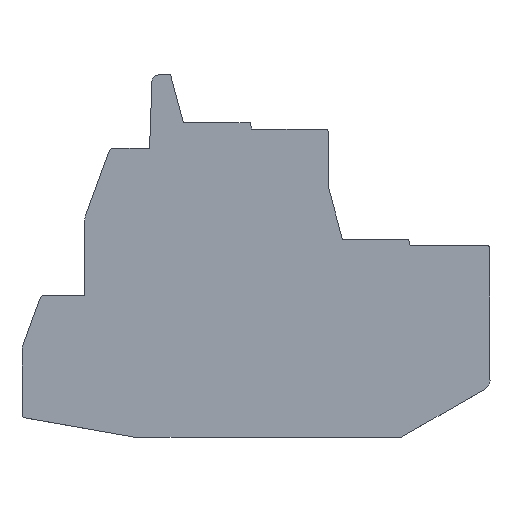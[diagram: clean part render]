
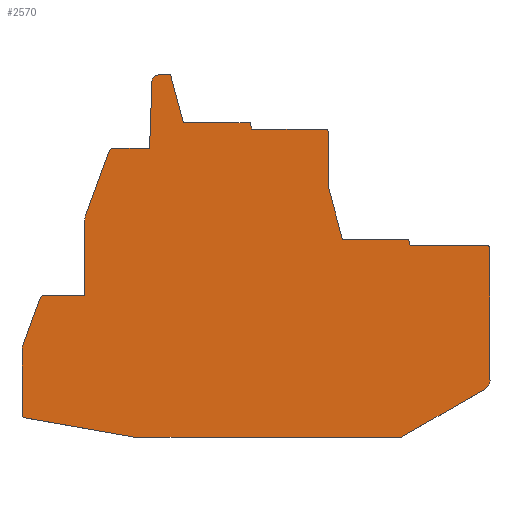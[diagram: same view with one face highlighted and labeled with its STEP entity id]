
A CAD part, top view. The second image highlights one B-rep face of the part: STEP entity #2570.
In plain terms, the highlighted planar face has unit normal (0, 0, 1).
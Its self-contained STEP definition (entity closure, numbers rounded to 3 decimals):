
#10=CARTESIAN_POINT('',(1.987,24.2,3.));
#20=DIRECTION('',(0.,0.,1.));
#30=DIRECTION('',(1.,0.,-0.));
#40=AXIS2_PLACEMENT_3D('',#10,#20,#30);
#50=PLANE('',#40);
#60=CARTESIAN_POINT('',(0.,56.9,3.));
#70=DIRECTION('',(-1.,0.,0.));
#80=VECTOR('',#70,1.);
#90=LINE('',#60,#80);
#100=CARTESIAN_POINT('',(-13.3,56.9,3.));
#110=VERTEX_POINT('',#100);
#120=CARTESIAN_POINT('',(-15.233,56.9,3.));
#130=VERTEX_POINT('',#120);
#140=EDGE_CURVE('',#110,#130,#90,.T.);
#150=ORIENTED_EDGE('',*,*,#140,.T.);
#160=CARTESIAN_POINT('',(1.946,0.,3.));
#170=DIRECTION('',(-0.259,0.966,0.));
#180=VECTOR('',#170,1.);
#190=LINE('',#160,#180);
#200=CARTESIAN_POINT('',(-11.29,49.4,3.));
#210=VERTEX_POINT('',#200);
#220=EDGE_CURVE('',#210,#110,#190,.T.);
#230=ORIENTED_EDGE('',*,*,#220,.T.);
#240=CARTESIAN_POINT('',(0.,49.4,3.));
#250=DIRECTION('',(-1.,0.,0.));
#260=VECTOR('',#250,1.);
#270=LINE('',#240,#260);
#280=CARTESIAN_POINT('',(-0.8,49.4,3.));
#290=VERTEX_POINT('',#280);
#300=EDGE_CURVE('',#290,#210,#270,.T.);
#310=ORIENTED_EDGE('',*,*,#300,.T.);
#320=CARTESIAN_POINT('',(12.437,0.,3.));
#330=DIRECTION('',(-0.259,0.966,0.));
#340=VECTOR('',#330,1.);
#350=LINE('',#320,#340);
#360=CARTESIAN_POINT('',(-0.532,48.4,3.));
#370=VERTEX_POINT('',#360);
#380=EDGE_CURVE('',#370,#290,#350,.T.);
#390=ORIENTED_EDGE('',*,*,#380,.T.);
#400=CARTESIAN_POINT('',(0.,48.4,3.));
#410=DIRECTION('',(-1.,0.,0.));
#420=VECTOR('',#410,1.);
#430=LINE('',#400,#420);
#440=CARTESIAN_POINT('',(11.,48.4,3.));
#450=VERTEX_POINT('',#440);
#460=EDGE_CURVE('',#450,#370,#430,.T.);
#470=ORIENTED_EDGE('',*,*,#460,.T.);
#480=CARTESIAN_POINT('',(11.,47.9,3.));
#490=DIRECTION('',(0.,0.,1.));
#500=DIRECTION('',(1.,0.,0.));
#510=AXIS2_PLACEMENT_3D('',#480,#490,#500);
#520=CIRCLE('',#510,0.5);
#530=CARTESIAN_POINT('',(11.5,47.9,3.));
#540=VERTEX_POINT('',#530);
#550=EDGE_CURVE('',#540,#450,#520,.T.);
#560=ORIENTED_EDGE('',*,*,#550,.T.);
#570=CARTESIAN_POINT('',(11.5,0.,3.));
#580=DIRECTION('',(0.,1.,0.));
#590=VECTOR('',#580,1.);
#600=LINE('',#570,#590);
#610=CARTESIAN_POINT('',(11.5,39.311,3.));
#620=VERTEX_POINT('',#610);
#630=EDGE_CURVE('',#620,#540,#600,.T.);
#640=ORIENTED_EDGE('',*,*,#630,.T.);
#650=CARTESIAN_POINT('',(22.033,0.,3.));
#660=DIRECTION('',(-0.259,0.966,0.));
#670=VECTOR('',#660,1.);
#680=LINE('',#650,#670);
#690=CARTESIAN_POINT('',(13.7,31.1,3.));
#700=VERTEX_POINT('',#690);
#710=EDGE_CURVE('',#700,#620,#680,.T.);
#720=ORIENTED_EDGE('',*,*,#710,.T.);
#730=CARTESIAN_POINT('',(0.,31.1,3.));
#740=DIRECTION('',(-1.,0.,0.));
#750=VECTOR('',#740,1.);
#760=LINE('',#730,#750);
#770=CARTESIAN_POINT('',(24.1,31.1,3.));
#780=VERTEX_POINT('',#770);
#790=EDGE_CURVE('',#780,#700,#760,.T.);
#800=ORIENTED_EDGE('',*,*,#790,.T.);
#810=CARTESIAN_POINT('',(32.433,0.,3.));
#820=DIRECTION('',(-0.259,0.966,0.));
#830=VECTOR('',#820,1.);
#840=LINE('',#810,#830);
#850=CARTESIAN_POINT('',(24.368,30.1,3.));
#860=VERTEX_POINT('',#850);
#870=EDGE_CURVE('',#860,#780,#840,.T.);
#880=ORIENTED_EDGE('',*,*,#870,.T.);
#890=CARTESIAN_POINT('',(0.,30.1,3.));
#900=DIRECTION('',(-1.,0.,0.));
#910=VECTOR('',#900,1.);
#920=LINE('',#890,#910);
#930=CARTESIAN_POINT('',(36.4,30.1,3.));
#940=VERTEX_POINT('',#930);
#950=EDGE_CURVE('',#940,#860,#920,.T.);
#960=ORIENTED_EDGE('',*,*,#950,.T.);
#970=CARTESIAN_POINT('',(36.4,29.6,3.));
#980=DIRECTION('',(0.,0.,1.));
#990=DIRECTION('',(1.,0.,0.));
#1000=AXIS2_PLACEMENT_3D('',#970,#980,#990);
#1010=CIRCLE('',#1000,0.5);
#1020=CARTESIAN_POINT('',(36.9,29.6,3.));
#1030=VERTEX_POINT('',#1020);
#1040=EDGE_CURVE('',#1030,#940,#1010,.T.);
#1050=ORIENTED_EDGE('',*,*,#1040,.T.);
#1060=CARTESIAN_POINT('',(36.9,0.,3.));
#1070=DIRECTION('',(0.,1.,0.));
#1080=VECTOR('',#1070,1.);
#1090=LINE('',#1060,#1080);
#1100=CARTESIAN_POINT('',(36.9,8.866,3.));
#1110=VERTEX_POINT('',#1100);
#1120=EDGE_CURVE('',#1110,#1030,#1090,.T.);
#1130=ORIENTED_EDGE('',*,*,#1120,.T.);
#1140=CARTESIAN_POINT('',(35.4,8.866,3.));
#1150=DIRECTION('',(-0.,-0.,-1.));
#1160=DIRECTION('',(-1.,0.,0.));
#1170=AXIS2_PLACEMENT_3D('',#1140,#1150,#1160);
#1180=CIRCLE('',#1170,1.5);
#1190=CARTESIAN_POINT('',(36.15,7.567,3.));
#1200=VERTEX_POINT('',#1190);
#1210=EDGE_CURVE('',#1110,#1200,#1180,.T.);
#1220=ORIENTED_EDGE('',*,*,#1210,.F.);
#1230=CARTESIAN_POINT('',(0.,-13.304,3.));
#1240=DIRECTION('',(-0.866,-0.5,0.));
#1250=VECTOR('',#1240,1.);
#1260=LINE('',#1230,#1250);
#1270=CARTESIAN_POINT('',(23.044,0.,3.));
#1280=VERTEX_POINT('',#1270);
#1290=EDGE_CURVE('',#1200,#1280,#1260,.T.);
#1300=ORIENTED_EDGE('',*,*,#1290,.F.);
#1310=CARTESIAN_POINT('',(0.,0.,3.));
#1320=DIRECTION('',(1.,0.,0.));
#1330=VECTOR('',#1320,1.);
#1340=LINE('',#1310,#1330);
#1350=CARTESIAN_POINT('',(-19.069,0.,3.));
#1360=VERTEX_POINT('',#1350);
#1370=EDGE_CURVE('',#1360,#1280,#1340,.T.);
#1380=ORIENTED_EDGE('',*,*,#1370,.T.);
#1390=CARTESIAN_POINT('',(0.,-3.362,3.));
#1400=DIRECTION('',(0.985,-0.174,0.));
#1410=VECTOR('',#1400,1.);
#1420=LINE('',#1390,#1410);
#1430=CARTESIAN_POINT('',(-36.237,3.027,3.));
#1440=VERTEX_POINT('',#1430);
#1450=EDGE_CURVE('',#1440,#1360,#1420,.T.);
#1460=ORIENTED_EDGE('',*,*,#1450,.T.);
#1470=CARTESIAN_POINT('',(-36.15,3.52,3.));
#1480=DIRECTION('',(-0.,-0.,-1.));
#1490=DIRECTION('',(0.,1.,0.));
#1500=AXIS2_PLACEMENT_3D('',#1470,#1480,#1490);
#1510=CIRCLE('',#1500,0.5);
#1520=CARTESIAN_POINT('',(-36.65,3.52,3.));
#1530=VERTEX_POINT('',#1520);
#1540=EDGE_CURVE('',#1440,#1530,#1510,.T.);
#1550=ORIENTED_EDGE('',*,*,#1540,.F.);
#1560=CARTESIAN_POINT('',(-36.65,0.,3.));
#1570=DIRECTION('',(0.,-1.,0.));
#1580=VECTOR('',#1570,1.);
#1590=LINE('',#1560,#1580);
#1600=CARTESIAN_POINT('',(-36.65,13.705,3.));
#1610=VERTEX_POINT('',#1600);
#1620=EDGE_CURVE('',#1610,#1530,#1590,.T.);
#1630=ORIENTED_EDGE('',*,*,#1620,.T.);
#1640=CARTESIAN_POINT('',(-34.65,13.705,3.));
#1650=DIRECTION('',(0.,0.,1.));
#1660=DIRECTION('',(1.,0.,0.));
#1670=AXIS2_PLACEMENT_3D('',#1640,#1650,#1660);
#1680=CIRCLE('',#1670,2.);
#1690=CARTESIAN_POINT('',(-36.529,14.389,3.));
#1700=VERTEX_POINT('',#1690);
#1710=EDGE_CURVE('',#1700,#1610,#1680,.T.);
#1720=ORIENTED_EDGE('',*,*,#1710,.T.);
#1730=CARTESIAN_POINT('',(-41.767,0.,3.));
#1740=DIRECTION('',(-0.342,-0.94,0.));
#1750=VECTOR('',#1740,1.);
#1760=LINE('',#1730,#1750);
#1770=CARTESIAN_POINT('',(-33.889,21.642,3.));
#1780=VERTEX_POINT('',#1770);
#1790=EDGE_CURVE('',#1780,#1700,#1760,.T.);
#1800=ORIENTED_EDGE('',*,*,#1790,.T.);
#1810=CARTESIAN_POINT('',(-32.95,21.3,3.));
#1820=DIRECTION('',(0.,0.,1.));
#1830=DIRECTION('',(0.,-1.,-0.));
#1840=AXIS2_PLACEMENT_3D('',#1810,#1820,#1830);
#1850=CIRCLE('',#1840,1.);
#1860=CARTESIAN_POINT('',(-32.95,22.3,3.));
#1870=VERTEX_POINT('',#1860);
#1880=EDGE_CURVE('',#1870,#1780,#1850,.T.);
#1890=ORIENTED_EDGE('',*,*,#1880,.T.);
#1900=CARTESIAN_POINT('',(0.,22.3,3.));
#1910=DIRECTION('',(-1.,0.,0.));
#1920=VECTOR('',#1910,1.);
#1930=LINE('',#1900,#1920);
#1940=CARTESIAN_POINT('',(-26.8,22.3,3.));
#1950=VERTEX_POINT('',#1940);
#1960=EDGE_CURVE('',#1950,#1870,#1930,.T.);
#1970=ORIENTED_EDGE('',*,*,#1960,.T.);
#1980=CARTESIAN_POINT('',(-26.8,0.,3.));
#1990=DIRECTION('',(0.,-1.,0.));
#2000=VECTOR('',#1990,1.);
#2010=LINE('',#1980,#2000);
#2020=CARTESIAN_POINT('',(-26.8,34.057,3.));
#2030=VERTEX_POINT('',#2020);
#2040=EDGE_CURVE('',#2030,#1950,#2010,.T.);
#2050=ORIENTED_EDGE('',*,*,#2040,.T.);
#2060=CARTESIAN_POINT('',(-24.8,34.057,3.));
#2070=DIRECTION('',(-0.,-0.,-1.));
#2080=DIRECTION('',(-1.,0.,0.));
#2090=AXIS2_PLACEMENT_3D('',#2060,#2070,#2080);
#2100=CIRCLE('',#2090,2.);
#2110=CARTESIAN_POINT('',(-26.679,34.741,3.));
#2120=VERTEX_POINT('',#2110);
#2130=EDGE_CURVE('',#2030,#2120,#2100,.T.);
#2140=ORIENTED_EDGE('',*,*,#2130,.F.);
#2150=CARTESIAN_POINT('',(-39.324,0.,3.));
#2160=DIRECTION('',(-0.342,-0.94,0.));
#2170=VECTOR('',#2160,1.);
#2180=LINE('',#2150,#2170);
#2190=CARTESIAN_POINT('',(-23.039,44.742,3.));
#2200=VERTEX_POINT('',#2190);
#2210=EDGE_CURVE('',#2200,#2120,#2180,.T.);
#2220=ORIENTED_EDGE('',*,*,#2210,.T.);
#2230=CARTESIAN_POINT('',(-22.1,44.4,3.));
#2240=DIRECTION('',(0.,0.,1.));
#2250=DIRECTION('',(0.,-1.,-0.));
#2260=AXIS2_PLACEMENT_3D('',#2230,#2240,#2250);
#2270=CIRCLE('',#2260,1.);
#2280=CARTESIAN_POINT('',(-22.1,45.4,3.));
#2290=VERTEX_POINT('',#2280);
#2300=EDGE_CURVE('',#2290,#2200,#2270,.T.);
#2310=ORIENTED_EDGE('',*,*,#2300,.T.);
#2320=CARTESIAN_POINT('',(0.,45.4,3.));
#2330=DIRECTION('',(-1.,0.,0.));
#2340=VECTOR('',#2330,1.);
#2350=LINE('',#2320,#2340);
#2360=CARTESIAN_POINT('',(-16.6,45.4,3.));
#2370=VERTEX_POINT('',#2360);
#2380=EDGE_CURVE('',#2370,#2290,#2350,.T.);
#2390=ORIENTED_EDGE('',*,*,#2380,.T.);
#2400=CARTESIAN_POINT('',(-18.185,0.,3.));
#2410=DIRECTION('',(-0.035,-0.999,0.));
#2420=VECTOR('',#2410,1.);
#2430=LINE('',#2400,#2420);
#2440=CARTESIAN_POINT('',(-16.232,55.935,3.));
#2450=VERTEX_POINT('',#2440);
#2460=EDGE_CURVE('',#2450,#2370,#2430,.T.);
#2470=ORIENTED_EDGE('',*,*,#2460,.T.);
#2480=CARTESIAN_POINT('',(-15.233,55.9,3.));
#2490=DIRECTION('',(-0.,-0.,-1.));
#2500=DIRECTION('',(0.,1.,0.));
#2510=AXIS2_PLACEMENT_3D('',#2480,#2490,#2500);
#2520=CIRCLE('',#2510,1.);
#2530=EDGE_CURVE('',#2450,#130,#2520,.T.);
#2540=ORIENTED_EDGE('',*,*,#2530,.F.);
#2550=EDGE_LOOP('',(#2540,#2470,#2390,#2310,#2220,#2140,#2050,#1970,
#1890,#1800,#1720,#1630,#1550,#1460,#1380,#1300,#1220,#1130,#1050,#960,
#880,#800,#720,#640,#560,#470,#390,#310,#230,#150));
#2560=FACE_OUTER_BOUND('',#2550,.T.);
#2570=ADVANCED_FACE('',(#2560),#50,.T.);
